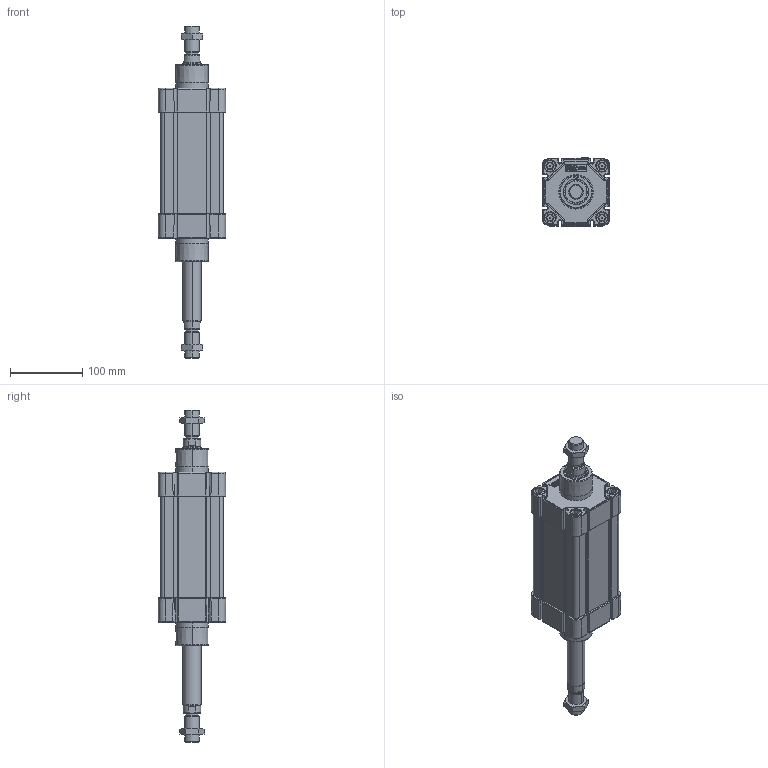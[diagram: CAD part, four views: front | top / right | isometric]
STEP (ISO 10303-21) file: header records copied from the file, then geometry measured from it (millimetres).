
FILE_DESCRIPTION (( 'STEP AP214' ), '1' );
FILE_NAME ('N11M40800080.STEP', '2021-09-28T10:15:58', ( '' ), ( '' ), 'SwSTEP 2.0', 'SolidWorks 2016', '' );
FILE_SCHEMA (( 'AUTOMOTIVE_DESIGN' ));
Length unit declared in the file: millimetre
Products named in the file (7): Pistone Ø80 ISO 15552; 21.E01.0000_21.E01.0080; N11M40800080; 000.514.7_000.514.0080; TA Ø80 ISO 15552 WEB; 21.E03.0000_21.E03.0080; 21.753.0
Assembly tree (8 placements, depth 2):
  N11M40800080
    TA Ø80 ISO 15552 WEB  x2
    21.753.0  x2
    Pistone Ø80 ISO 15552
    21.E01.0000_21.E01.0080
    000.514.7_000.514.0080
    21.E03.0000_21.E03.0080
Bounding box: 93.95 x 93.97 x 460 mm (x, y, z)
Volume: 1208862.4 mm3; surface area: 374533.6 mm2
Topology: 20 solids, 20 shells, 2212 faces, 5630 edges, 3549 vertices
Faces by surface type: plane 918, cylinder 682, cone 318, bspline 192, torus 98, sphere 4
Entity records: 50965 total; most frequent: CARTESIAN_POINT 11081, ORIENTED_EDGE 6182, DIRECTION 5897, EDGE_CURVE 3091, AXIS2_PLACEMENT_3D 2112, VERTEX_POINT 1960, LINE 1673, VECTOR 1673
